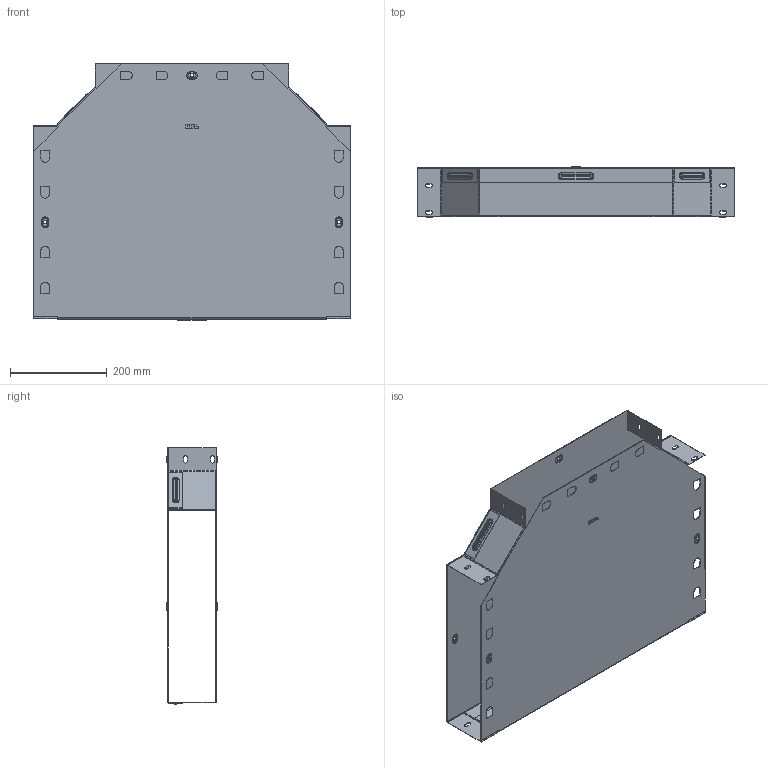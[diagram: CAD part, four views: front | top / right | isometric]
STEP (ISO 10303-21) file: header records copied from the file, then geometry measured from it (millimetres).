
FILE_DESCRIPTION (( 'STEP AP214' ), '1' );
FILE_NAME ('t10040008_捘.STEP', '2019-06-10T08:08:07', ( '砐錪賧瘔蠈錪 Windows' ), ( '' ), 'SwSTEP 2.0', 'SolidWorks 2018', '' );
FILE_SCHEMA (( 'AUTOMOTIVE_DESIGN' ));
Length unit declared in the file: millimetre
Products named in the file (1): t10040008_捘
Bounding box: 656.4 x 103.8 x 531 mm (x, y, z)
Volume: 604323.4 mm3; surface area: 1517548.6 mm2
Topology: 2 solids, 2 shells, 832 faces, 2436 edges, 1588 vertices
Faces by surface type: plane 478, cylinder 240, torus 96, bspline 18
Entity records: 28765 total; most frequent: CARTESIAN_POINT 5937, ORIENTED_EDGE 4872, DIRECTION 4654, EDGE_CURVE 2436, VECTOR 1776, LINE 1776, VERTEX_POINT 1588, AXIS2_PLACEMENT_3D 1439
